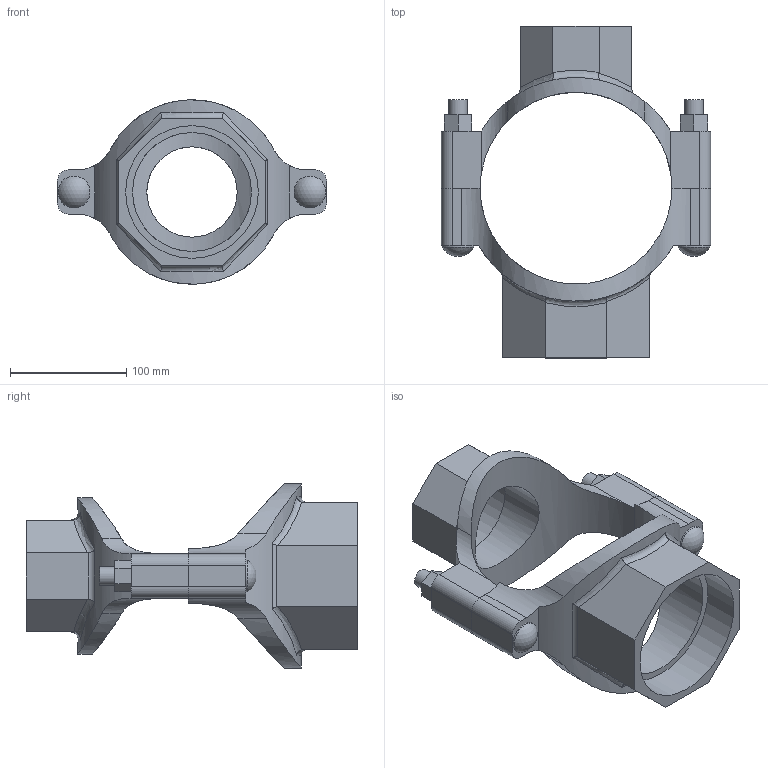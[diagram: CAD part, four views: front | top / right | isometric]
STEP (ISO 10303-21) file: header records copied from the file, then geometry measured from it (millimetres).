
FILE_DESCRIPTION(/* description */ ('VIC MECH-T BRANCH OUTLET CROSS STYLE 920N (THD)','CAx-IF Rec.Pracs.---Representation and Presentation of Product Manufacturing Information (PMI)---4.0---2014-10-13'),/* implementation_level */ '2;1');
FILE_NAME(/* name */ 'C:\Users\Vjadhav\AppData\Roaming\Autodesk\ApplicationPlugins\Back Up\Victaulic_IPS_Mechanical-Cross Outlet_Style 920N (FPT)\Victaulic_IPS_Mechanical-Cross Outlet_06.0 (165.1)x03.0x04.0 (150x80x100).stp',/* time_stamp */ '2020-08-06T19:00:39+06:00',/* author */ ('Vjadhav'),/* organization */ ('Victaulic'),/* preprocessor_version */ 'ST-DEVELOPER v17.2',/* originating_system */ 'Autodesk Inventor 2019',/* authorisation */ '');
FILE_SCHEMA (('AP242_MANAGED_MODEL_BASED_3D_ENGINEERING_MIM_LF { 1 0 10303 442 1 1 4 }'));
Length unit declared in the file: inch
Products named in the file (3): 920NT-06.0 (165.1)x03.0x04.0; 920T-06.0 (165.1)x03.0; 920T-06.0 (165.1)x04.0
Assembly tree (2 placements, depth 2):
  920NT-06.0 (165.1)x03.0x04.0
    920T-06.0 (165.1)x03.0
    920T-06.0 (165.1)x04.0
Bounding box: 231.9 x 285.75 x 158.73 mm (x, y, z)
Volume: 993079.1 mm3; surface area: 212597.7 mm2
Topology: 2 solids, 2 shells, 128 faces, 338 edges, 228 vertices
Faces by surface type: plane 68, cylinder 46, bspline 8, torus 4, sphere 2
Full cylindrical faces by diameter (mm): 15.875 x4, 27.496 x2, 77.787 x1, 88.9 x1, 102.394 x1, 114.3 x1
Entity records: 5136 total; most frequent: CARTESIAN_POINT 1731, ORIENTED_EDGE 676, DIRECTION 628, EDGE_CURVE 338, VERTEX_POINT 228, AXIS2_PLACEMENT_3D 223, LINE 182, VECTOR 182
